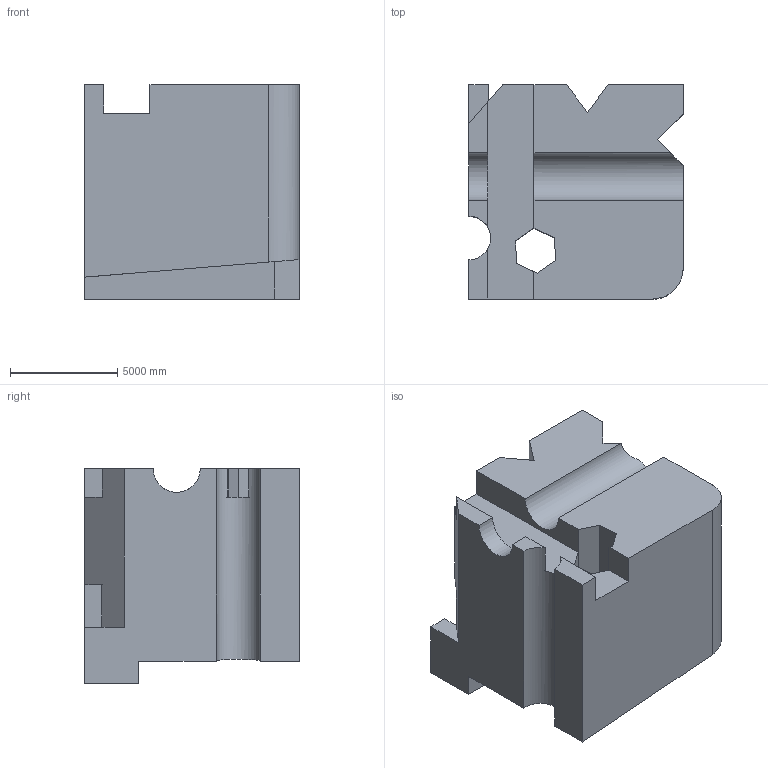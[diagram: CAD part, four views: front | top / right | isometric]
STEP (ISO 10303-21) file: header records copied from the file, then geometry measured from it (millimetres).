
FILE_DESCRIPTION (( 'STEP AP203' ), '1' );
FILE_NAME ('919.STEP', '2022-07-29T14:18:38', ( 'user' ), ( '' ), 'SwSTEP 2.0', 'SolidWorks 2021', '' );
FILE_SCHEMA (( 'CONFIG_CONTROL_DESIGN' ));
Length unit declared in the file: centimetre
Products named in the file (1): 919
Bounding box: 10000 x 10000 x 10000 mm (x, y, z)
Volume: 753327997431.9 mm3; surface area: 665888565.6 mm2
Topology: 1 solids, 1 shells, 41 faces, 120 edges, 80 vertices
Faces by surface type: plane 37, cylinder 4
Entity records: 1423 total; most frequent: CARTESIAN_POINT 251, ORIENTED_EDGE 240, DIRECTION 209, EDGE_CURVE 120, LINE 109, VECTOR 109, VERTEX_POINT 80, AXIS2_PLACEMENT_3D 50
